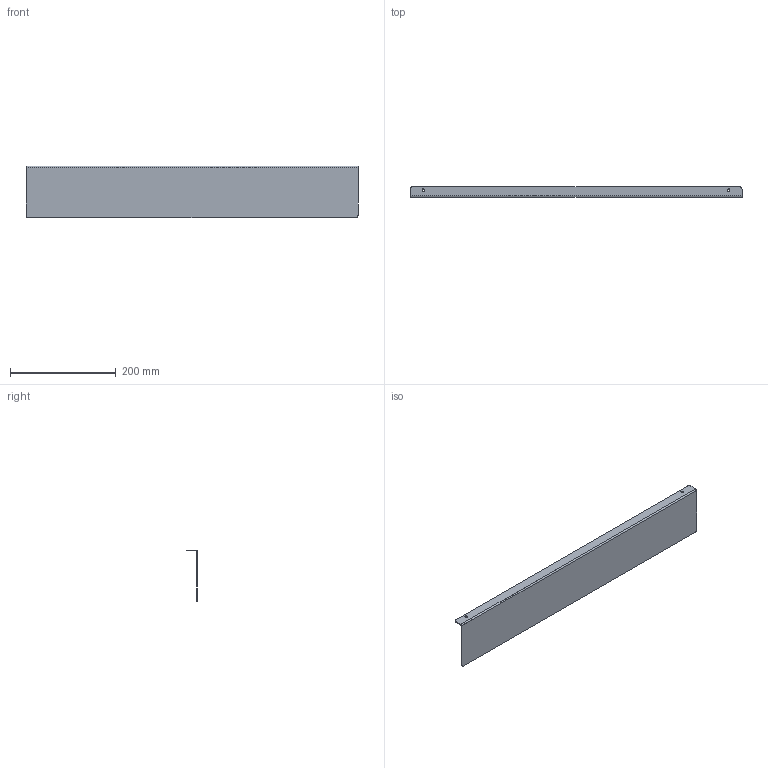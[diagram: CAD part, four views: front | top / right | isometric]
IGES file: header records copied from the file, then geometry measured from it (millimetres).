
Start section: SolidWorks IGES file using analytic representation for surfaces
Global section: file name: C:\Users\User\Desktop\Outliner M\Àêñåññóàðû Outliner M\Àíòèîñëåïëÿþùèé ýêðàí Outliner M 600.IGS; native system: SolidWorks 2020; preprocessor: SolidWorks 2020; author: User; date: 231115.184131; units: millimetre
Bounding box: 627 x 20 x 97.5 mm (x, y, z)
Volume: 108311.7 mm3; surface area: 146671.9 mm2
Topology: 1 solids, 1 shells, 22 faces, 52 edges, 32 vertices
Faces by surface type: plane 12, revolution 10
